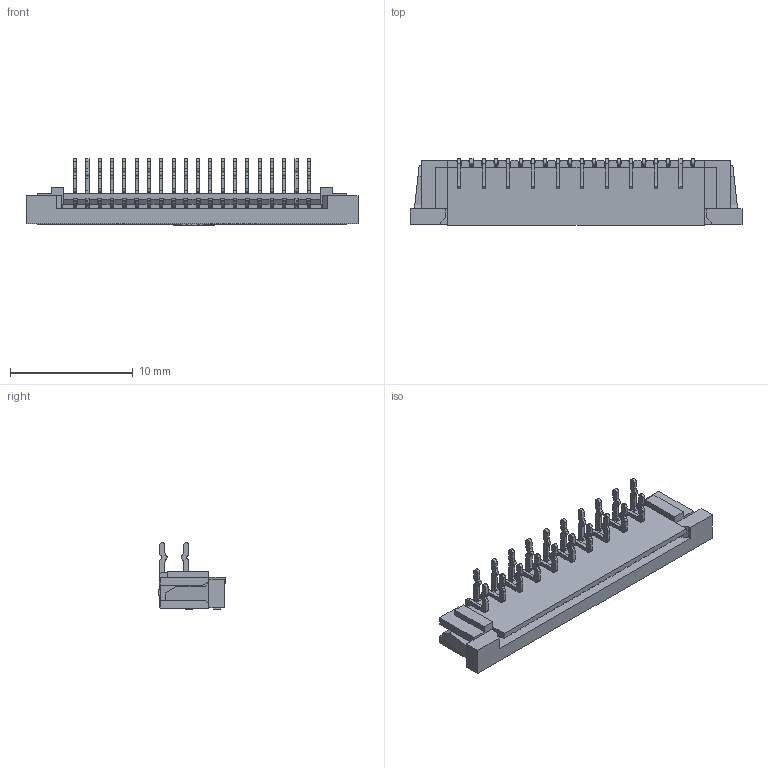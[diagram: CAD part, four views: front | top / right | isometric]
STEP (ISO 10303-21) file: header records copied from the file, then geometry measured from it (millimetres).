
FILE_DESCRIPTION (( 'STEP AP203' ), '1' );
FILE_NAME ('GT-F1001DR25-20SBT02.STEP', '2024-01-15T02:15:31', ( 'Microsoft' ), ( 'Microsoft' ), 'SwSTEP 2.0', 'SolidWorks 2023', '' );
FILE_SCHEMA (( 'CONFIG_CONTROL_DESIGN' ));
Products named in the file (1): GT-F1001DR25-20SBT02
Bounding box: 27 x 5.4 x 5.42 mm (x, y, z)
Volume: 290.8 mm3; surface area: 1310.9 mm2
Topology: 21 solids, 21 shells, 2248 faces, 6622 edges, 4383 vertices
Faces by surface type: plane 1416, cylinder 751, bspline 81
Entity records: 79021 total; most frequent: CARTESIAN_POINT 17953, ORIENTED_EDGE 13244, DIRECTION 12288, EDGE_CURVE 6622, LINE 4952, VECTOR 4952, VERTEX_POINT 4383, AXIS2_PLACEMENT_3D 3668
